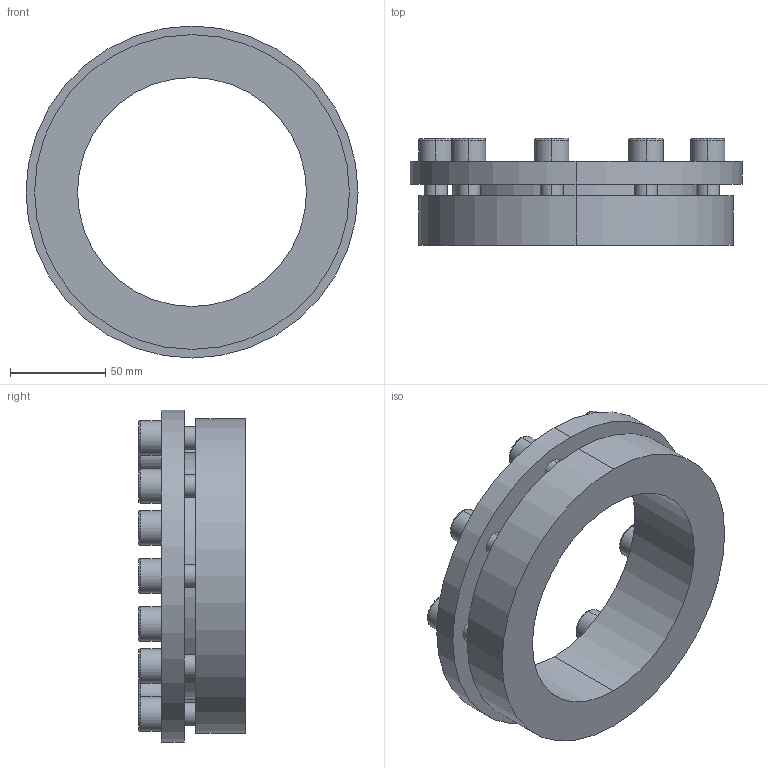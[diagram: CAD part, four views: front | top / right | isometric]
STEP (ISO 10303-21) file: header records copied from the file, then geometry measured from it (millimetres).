
FILE_DESCRIPTION (( 'STEP AP203' ), '1' );
FILE_NAME ('PL-H6 120-165.STEP', '2021-10-23T01:38:49', ( '' ), ( '' ), 'SwSTEP 2.0', 'SolidWorks 2018', '' );
FILE_SCHEMA (( 'CONFIG_CONTROL_DESIGN' ));
Length unit declared in the file: millimetre
Products named in the file (1): PL-H6 120-165
Bounding box: 174 x 56 x 174 mm (x, y, z)
Volume: 450886.1 mm3; surface area: 88375 mm2
Topology: 1 solids, 1 shells, 138 faces, 330 edges, 214 vertices
Faces by surface type: plane 76, cylinder 44, torus 18
Entity records: 4131 total; most frequent: DIRECTION 732, CARTESIAN_POINT 683, ORIENTED_EDGE 660, EDGE_CURVE 330, AXIS2_PLACEMENT_3D 263, VERTEX_POINT 214, LINE 206, VECTOR 206
